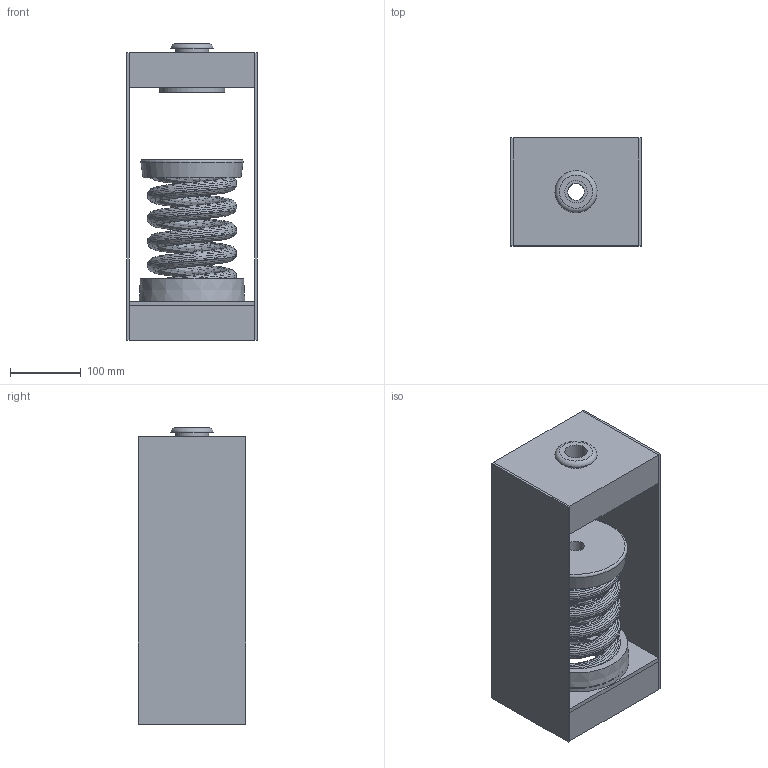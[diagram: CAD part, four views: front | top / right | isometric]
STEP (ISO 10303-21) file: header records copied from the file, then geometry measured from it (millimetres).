
FILE_DESCRIPTION(/* description */ (''),/* implementation_level */ '2;1');
FILE_NAME(/* name */ 'C:\001_Work\Designs\HANGER BOXES\30N 100 SERIES\30N-110-111\30N-111.stp',/* time_stamp */ '2015-05-26T15:46:00-04:00',/* author */ ('rramoutar'),/* organization */ ('Mason Industries Inc.'),/* preprocessor_version */ 'ST-DEVELOPER v15.2',/* originating_system */ 'Autodesk Inventor 2014',/* authorisation */ '');
FILE_SCHEMA (('AUTOMOTIVE_DESIGN { 1 0 10303 214 3 1 1 }'));
Length unit declared in the file: inch
Products named in the file (1): 30N-111
Bounding box: 184.15 x 152.4 x 418.78 mm (x, y, z)
Volume: 1913055.4 mm3; surface area: 922063 mm2
Topology: 12 solids, 13 shells, 156 faces, 357 edges, 239 vertices
Faces by surface type: plane 94, cylinder 34, bspline 22, cone 4, torus 2
Full cylindrical faces by diameter (mm): 23.812 x2, 31.75 x2, 41.275 x2, 46.831 x1, 47.625 x1, 82.55 x2, 88.9 x1, 92.075 x1, 93.662 x1, 95.25 x2, 96.837 x2, 98.425 x3, 125.412 x1, 129.381 x1, 146.05 x2
Entity records: 14543 total; most frequent: CARTESIAN_POINT 11016, ORIENTED_EDGE 644, DIRECTION 624, EDGE_CURVE 322, VERTEX_POINT 234, AXIS2_PLACEMENT_3D 231, EDGE_LOOP 220, STYLED_ITEM 164
